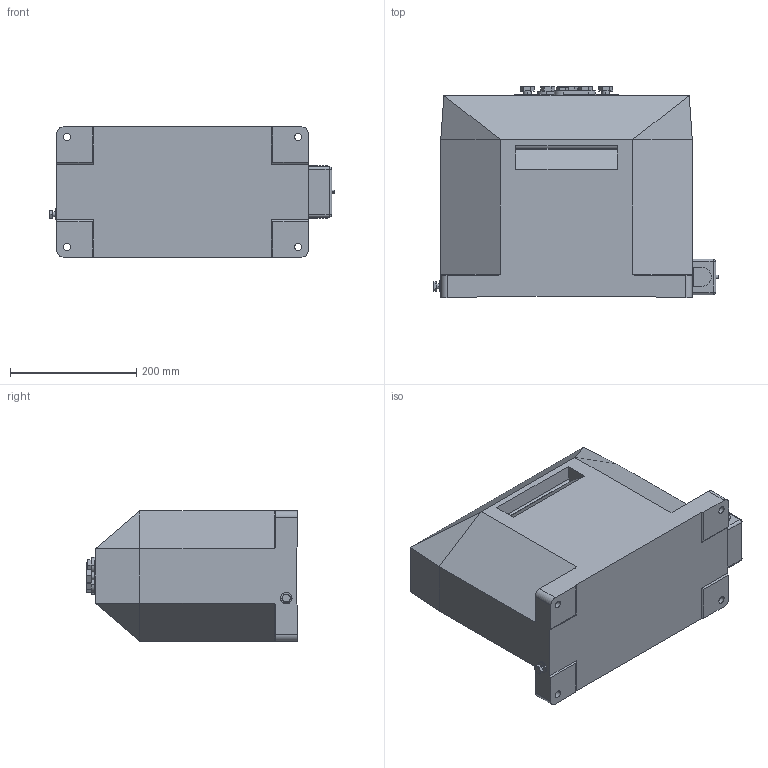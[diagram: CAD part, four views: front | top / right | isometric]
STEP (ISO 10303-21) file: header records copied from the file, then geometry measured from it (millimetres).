
FILE_DESCRIPTION (( 'STEP AP214' ), '1' );
FILE_NAME ('24305-022_AM-40b_2x5-300A_paralel.STEP', '2025-10-07T08:49:45', ( '' ), ( '' ), 'SwSTEP 2.0', 'SolidWorks 2020', '' );
FILE_SCHEMA (( 'AUTOMOTIVE_DESIGN' ));
Length unit declared in the file: millimetre
Products named in the file (1): 24305-022_AM-40b_2x5-300A_paralel
Bounding box: 452 x 334.5 x 206 mm (x, y, z)
Volume: 21586356.5 mm3; surface area: 529178.8 mm2
Topology: 1 solids, 4 shells, 344 faces, 903 edges, 574 vertices
Faces by surface type: plane 193, cylinder 117, cone 18, sphere 8, torus 4, bspline 4
Entity records: 12832 total; most frequent: CARTESIAN_POINT 2740, ORIENTED_EDGE 1790, DIRECTION 1725, EDGE_CURVE 895, AXIS2_PLACEMENT_3D 582, VERTEX_POINT 574, VECTOR 561, LINE 561
